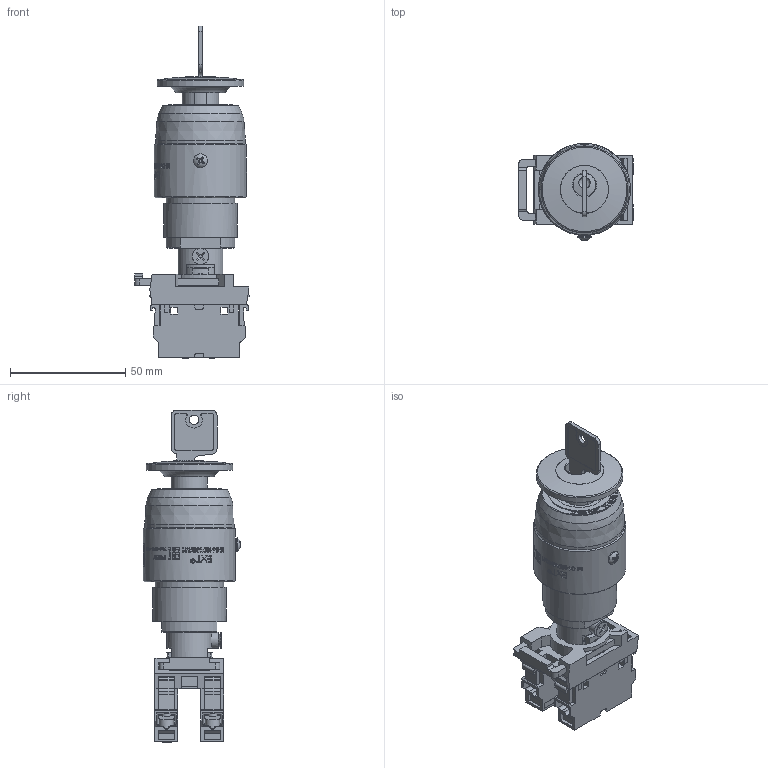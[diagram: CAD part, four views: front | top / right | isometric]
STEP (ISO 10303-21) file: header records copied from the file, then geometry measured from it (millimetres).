
FILE_DESCRIPTION((''),'2;1');
FILE_NAME('\\192.168.5.25\cortem_klient\INVENTOR БАЗА МОДЕЛЕЙ\Актуальная база моделей для отдела продаж\Элементы управления и индикации\КГВ09\КГВ09К11_М1.stp','2019-04-09T16:11:20',('A.S.Kozlov'),(''),'Autodesk Inventor 2012','Autodesk Inventor 2012','');
FILE_SCHEMA(('CONFIG_CONTROL_DESIGN'));
Length unit declared in the file: millimetre
Products named in the file (1): M-0446_ABB_M1_Внешний контур_1
Bounding box: 49.65 x 42.23 x 144.2 mm (x, y, z)
Surface area: 35572.9 mm2 (no closed solid volume)
Topology: 0 solids, 80 shells, 525 faces, 3522 edges, 3001 vertices
Faces by surface type: plane 386, cylinder 93, cone 30, bspline 9, sphere 4, torus 3
Full cylindrical faces by diameter (mm): 3 x1, 3.75 x1, 4 x4, 4.1 x1, 6.2 x4, 6.5 x4, 7 x1, 9.9 x1, 12 x1, 14.3 x1, 15.8 x2, 15.9 x1, 19.8 x1, 27.5 x1, 29.75 x1, 32 x1, 37.6 x1, 39 x1, 40 x1
Entity records: 85862 total; most frequent: CARTESIAN_POINT 61341, ORIENTED_EDGE 4540, DIRECTION 3772, EDGE_CURVE 3445, VERTEX_POINT 2971, VECTOR 1750, LINE 1750, AXIS2_PLACEMENT_3D 1011
